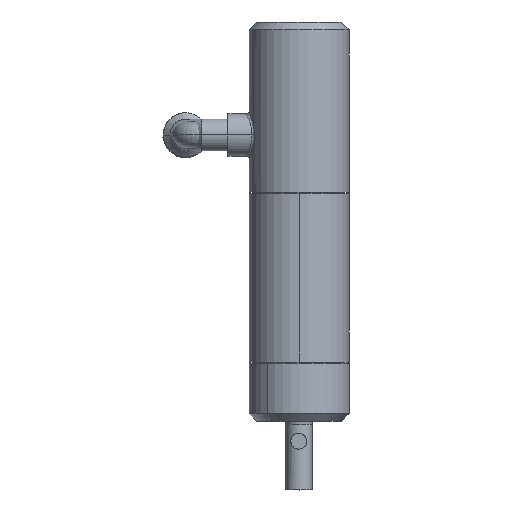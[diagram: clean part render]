
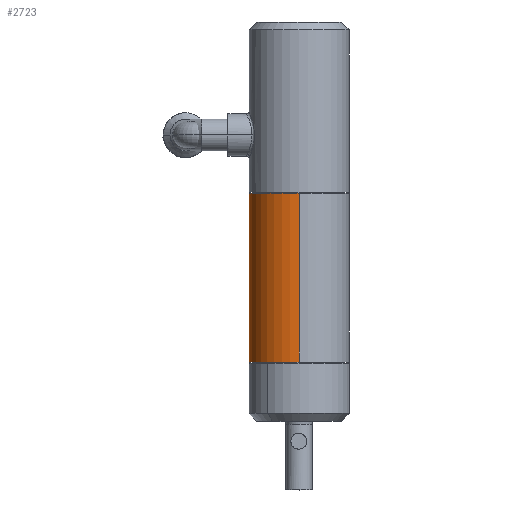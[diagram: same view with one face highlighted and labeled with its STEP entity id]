
A CAD part, top view. The second image highlights one B-rep face of the part: STEP entity #2723.
In plain terms, the highlighted cylindrical face has radius 19 mm (diameter 38 mm), a partial arc.
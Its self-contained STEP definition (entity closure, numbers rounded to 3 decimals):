
#114 = EDGE_CURVE ( 'NONE', #6744, #3245, #2854, .T. ) ;
#291 = DIRECTION ( 'NONE',  ( 0., -1., 0. ) ) ;
#544 = CARTESIAN_POINT ( 'NONE',  ( 0., 90.5, 19. ) ) ;
#692 = AXIS2_PLACEMENT_3D ( 'NONE', #2530, #6247, #1905 ) ;
#738 = CARTESIAN_POINT ( 'NONE',  ( 0., 90.5, -19. ) ) ;
#749 = ORIENTED_EDGE ( 'NONE', *, *, #2884, .F. ) ;
#1027 = ORIENTED_EDGE ( 'NONE', *, *, #3503, .F. ) ;
#1161 = DIRECTION ( 'NONE',  ( 0., -1., 0. ) ) ;
#1380 = ORIENTED_EDGE ( 'NONE', *, *, #5839, .T. ) ;
#1905 = DIRECTION ( 'NONE',  ( 0., 0., 1. ) ) ;
#2128 = CIRCLE ( 'NONE', #4377, 19. ) ;
#2353 = LINE ( 'NONE', #738, #3818 ) ;
#2512 = CARTESIAN_POINT ( 'NONE',  ( 0., 75., 19. ) ) ;
#2530 = CARTESIAN_POINT ( 'NONE',  ( 0., 75., 0. ) ) ;
#2723 = ADVANCED_FACE ( 'NONE', ( #5336 ), #2908, .T. ) ;
#2854 = CIRCLE ( 'NONE', #692, 19. ) ;
#2884 = EDGE_CURVE ( 'NONE', #4744, #4269, #2128, .T. ) ;
#2908 = CYLINDRICAL_SURFACE ( 'NONE', #4099, 19. ) ;
#3111 = CARTESIAN_POINT ( 'NONE',  ( 0., 11., -19. ) ) ;
#3187 = CARTESIAN_POINT ( 'NONE',  ( 0., 11., 19. ) ) ;
#3245 = VERTEX_POINT ( 'NONE', #2512 ) ;
#3354 = CARTESIAN_POINT ( 'NONE',  ( 0., 90.5, 0. ) ) ;
#3503 = EDGE_CURVE ( 'NONE', #3245, #4744, #5246, .T. ) ;
#3818 = VECTOR ( 'NONE', #4482, 1000. ) ;
#3997 = DIRECTION ( 'NONE',  ( 0., -1., 0. ) ) ;
#4016 = CARTESIAN_POINT ( 'NONE',  ( 0., 11., 0. ) ) ;
#4099 = AXIS2_PLACEMENT_3D ( 'NONE', #3354, #3997, #7059 ) ;
#4269 = VERTEX_POINT ( 'NONE', #3111 ) ;
#4377 = AXIS2_PLACEMENT_3D ( 'NONE', #4016, #291, #4651 ) ;
#4465 = VECTOR ( 'NONE', #1161, 1000. ) ;
#4482 = DIRECTION ( 'NONE',  ( 0., -1., 0. ) ) ;
#4651 = DIRECTION ( 'NONE',  ( 0., 0., -1. ) ) ;
#4744 = VERTEX_POINT ( 'NONE', #3187 ) ;
#5246 = LINE ( 'NONE', #544, #4465 ) ;
#5336 = FACE_OUTER_BOUND ( 'NONE', #5488, .T. ) ;
#5488 = EDGE_LOOP ( 'NONE', ( #1027, #6751, #1380, #749 ) ) ;
#5839 = EDGE_CURVE ( 'NONE', #6744, #4269, #2353, .T. ) ;
#6247 = DIRECTION ( 'NONE',  ( 0., 1., 0. ) ) ;
#6744 = VERTEX_POINT ( 'NONE', #6763 ) ;
#6751 = ORIENTED_EDGE ( 'NONE', *, *, #114, .F. ) ;
#6763 = CARTESIAN_POINT ( 'NONE',  ( 0., 75., -19. ) ) ;
#7059 = DIRECTION ( 'NONE',  ( 0., 0., -1. ) ) ;
